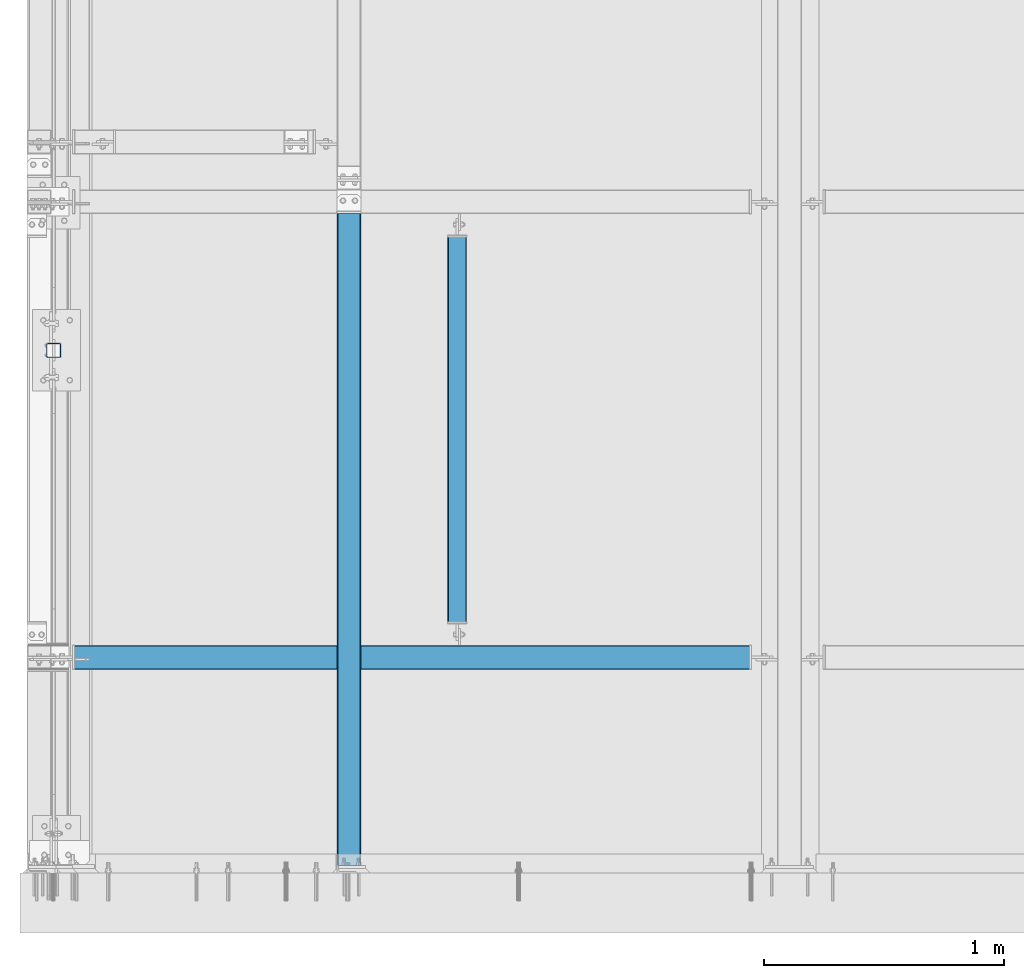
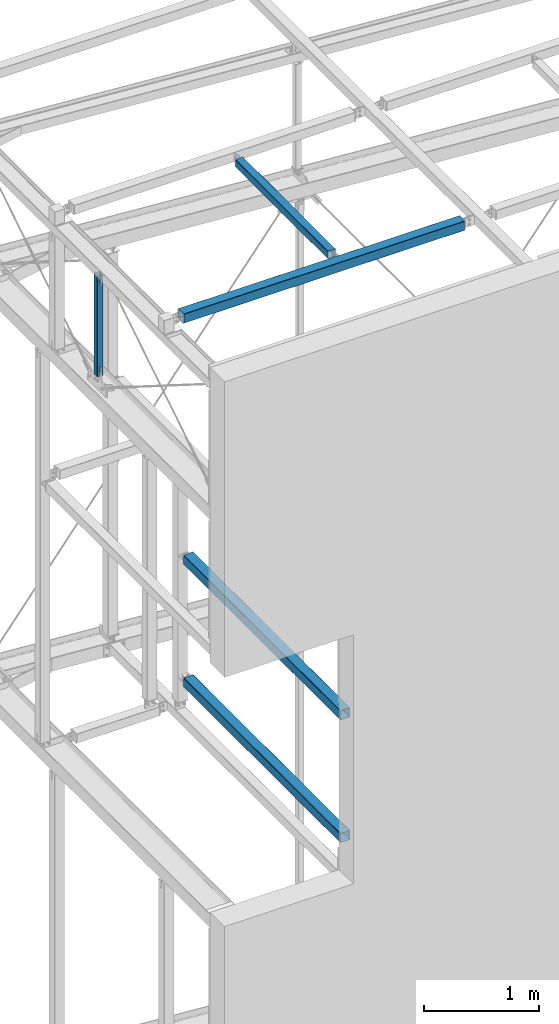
# One storey, part 11 of 271: 5 beams, 5 elements without a shape of their own.
"""IFC2X3 building model written with IfcOpenShell, lengths in millimetres."""

import ifcopenshell
import ifcopenshell.guid

model = None  # the IFC model being written
_history = None  # IfcOwnerHistory: only IFC2X3 demands one
_inside = {}  # id of a spatial element -> (the spatial element, [elements in it])
_under = {}  # id of a project, library or spatial element -> (it, [spatial elements below it])
_declared = {}  # id of a project -> (the project, [libraries it declares])
_typed = {}  # id of a type object -> (the type object, [elements of that type])
_made_of = {}  # id of a material, layer set ... -> (it, [elements and type objects made of it])


def new_model(schema):
    """Start an empty IFC model of exactly this schema.

    Asked for "IFC4X3", IfcOpenShell would pick the latest addendum, in which some entities
    have other attributes; the version numbers below select the first issue.
    IFC2X3 requires an IfcOwnerHistory on every rooted entity: one is made here for all.
    """
    global model, _history
    if schema == "IFC4X3":
        model = ifcopenshell.file(schema_version=(4, 3, 0, 0))
    else:
        model = ifcopenshell.file(schema=schema)
    _inside.clear()
    _under.clear()
    _declared.clear()
    _typed.clear()
    _made_of.clear()
    _history = None
    if model.schema == "IFC2X3":
        org = make("IfcOrganization", Name="unknown")
        user = make(
            "IfcPersonAndOrganization",
            ThePerson=make("IfcPerson", FamilyName="unknown"),
            TheOrganization=org,
        )
        app = make(
            "IfcApplication",
            ApplicationDeveloper=org,
            Version="unknown",
            ApplicationFullName="unknown",
            ApplicationIdentifier="unknown",
        )
        _history = make(
            "IfcOwnerHistory",
            OwningUser=user,
            OwningApplication=app,
            ChangeAction="ADDED",
            CreationDate=0,
        )
    return model


def make(cls, **values):
    """One entity of the class cls with the attributes given. An attribute that is None is left unset."""
    return model.create_entity(
        cls, **{name: value for name, value in values.items() if value is not None}
    )


def rooted(cls, **values):
    """An entity with a GlobalId (a new one), such as an element, a storey or a relation."""
    return make(cls, GlobalId=ifcopenshell.guid.new(), OwnerHistory=_history, **values)


def si_unit(unit_type, name, prefix=None):
    """IfcSIUnit, for example si_unit("LENGTHUNIT", "METRE", prefix="MILLI")."""
    return make("IfcSIUnit", UnitType=unit_type, Prefix=prefix, Name=name)


def assignment(units):
    """IfcUnitAssignment: the units of a project."""
    return None if units is None else make("IfcUnitAssignment", Units=units)


def point(xyz):
    """IfcCartesianPoint."""
    return None if xyz is None else make("IfcCartesianPoint", Coordinates=xyz)


def direction(xyz):
    """IfcDirection."""
    return None if xyz is None else make("IfcDirection", DirectionRatios=xyz)


def frame(location, z_axis=None, x_axis=None):
    """IfcAxis2Placement3D, a coordinate frame: its origin and axes. An axis left out is left unset."""
    return make(
        "IfcAxis2Placement3D",
        Location=point(location),
        Axis=direction(z_axis),
        RefDirection=direction(x_axis),
    )


def frame_2d(location, x_axis=None):
    """IfcAxis2Placement2D, a coordinate frame in the plane: its origin and x axis."""
    return make(
        "IfcAxis2Placement2D", Location=point(location), RefDirection=direction(x_axis)
    )


def origin_with_axes():
    """The frame at (0, 0, 0) with the z axis (0, 0, 1) and the x axis (1, 0, 0) written out."""
    return frame((0.0, 0.0, 0.0), z_axis=(0.0, 0.0, 1.0), x_axis=(1.0, 0.0, 0.0))


def origin_2d_with_axis():
    """The frame at (0, 0) in the plane with the x axis (1, 0) written out."""
    return frame_2d((0.0, 0.0), x_axis=(1.0, 0.0))


def place(relative_to, where):
    """IfcLocalPlacement: puts the frame where relative to a parent placement (None: the world)."""
    return make(
        "IfcLocalPlacement", PlacementRelTo=relative_to, RelativePlacement=where
    )


def context(
    kind, dimensions, precision=None, world=None, true_north=None, identifier=None
):
    """IfcGeometricRepresentationContext, for example the 3D "Model" context."""
    return make(
        "IfcGeometricRepresentationContext",
        ContextIdentifier=identifier,
        ContextType=kind,
        CoordinateSpaceDimension=dimensions,
        Precision=precision,
        WorldCoordinateSystem=world,
        TrueNorth=true_north,
    )


def subcontext(parent, identifier, kind, view, scale=None):
    """IfcGeometricRepresentationSubContext, for example "Body" below "Model"."""
    return make(
        "IfcGeometricRepresentationSubContext",
        ContextIdentifier=identifier,
        ContextType=kind,
        ParentContext=parent,
        TargetScale=scale,
        TargetView=view,
    )


def project(units=None, contexts=None):
    """IfcProject with its units and contexts."""
    return rooted(
        "IfcProject",
        Name="project",
        RepresentationContexts=contexts,
        UnitsInContext=assignment(units),
    )


def spatial(cls, under=None, at=None, **own):
    """A site, building, storey or space (cls), placed at a placement, below another one or the project."""
    s = rooted(cls, ObjectPlacement=at, **own)
    if under is not None:
        _under.setdefault(under.id(), (under, []))[1].append(s)
    return s


def profile(cls, at=None, kind="AREA", **sizes):
    """A parametric profile (cls). Its sizes go by their IFC names, for example OverallWidth=200.0."""
    return make(cls, ProfileType=kind, Position=at, **sizes)


def rectangle(**sizes):
    """IfcRectangleProfileDef."""
    return profile("IfcRectangleProfileDef", **sizes)


def hollow_rectangle(**sizes):
    """IfcRectangleHollowProfileDef."""
    return profile("IfcRectangleHollowProfileDef", **sizes)


def extrude(swept, where, along, depth):
    """IfcExtrudedAreaSolid: the profile swept, set in the frame where, extruded along a direction by depth."""
    return make(
        "IfcExtrudedAreaSolid",
        SweptArea=swept,
        Position=where,
        ExtrudedDirection=direction(along),
        Depth=depth,
    )


def boolean(op, a, b):
    """IfcBooleanResult of two solids."""
    return make("IfcBooleanResult", Operator=op, FirstOperand=a, SecondOperand=b)


def clip(a, b, op="DIFFERENCE"):
    """IfcBooleanClippingResult: the solid a cut by the half space b."""
    return make(
        "IfcBooleanClippingResult", Operator=op, FirstOperand=a, SecondOperand=b
    )


def halfspace(plane, agree):
    """IfcHalfSpaceSolid: all space on one side of the plane z = 0 of the frame plane."""
    return make(
        "IfcHalfSpaceSolid",
        BaseSurface=make("IfcPlane", Position=plane),
        AgreementFlag=agree,
    )


def shape(context_of_items, identifier, shape_type, items):
    """IfcShapeRepresentation: the items that make up one representation, for example the "Body"."""
    return make(
        "IfcShapeRepresentation",
        ContextOfItems=context_of_items,
        RepresentationIdentifier=identifier,
        RepresentationType=shape_type,
        Items=items,
    )


def material(Name=None, Category=None):
    """IfcMaterial."""
    return make("IfcMaterial", Name=Name, Category=Category)


def made_of(thing, what):
    """Note that an element or type object is made of a material, layer set ...; save() writes the relation."""
    if what is not None:
        _made_of.setdefault(what.id(), (what, []))[1].append(thing)
    return thing


def type_object(cls, material=None, **own):
    """A type object (cls), such as IfcWallType, which elements share."""
    return made_of(rooted(cls, **own), material)


def element(
    cls,
    number,
    at=None,
    inside=None,
    cuts=None,
    type_object=None,
    material=None,
    context=None,
    identifier="Body",
    shape_type=None,
    held_by="IfcProductDefinitionShape",
    body=None,
    shapes=None,
    **own,
):
    """One element of the class cls, such as IfcWall. Its Tag is "e" and its number.

    at: its placement. inside: the storey or other place that contains it. cuts: it is an
    opening in that element (IfcRelVoidsElement). A single representation is given by context,
    identifier, shape_type and body (its items); several are given by shapes. held_by: the class
    of the entity that holds the representations. save() writes the other relations.
    """
    e = rooted(cls, Tag="e%d" % number, ObjectPlacement=at, **own)
    if body is not None:
        shapes = [shape(context, identifier, shape_type, body)]
    if shapes is not None:
        e.Representation = make(held_by, Representations=shapes)
    if inside is not None:
        _inside.setdefault(inside.id(), (inside, []))[1].append(e)
    if cuts is not None:
        rooted(
            "IfcRelVoidsElement", RelatingBuildingElement=cuts, RelatedOpeningElement=e
        )
    if type_object is not None:
        _typed.setdefault(type_object.id(), (type_object, []))[1].append(e)
    return made_of(e, material)


def aggregate(whole, parts):
    """IfcRelAggregates: a whole, such as a stair, and the parts it consists of."""
    return rooted("IfcRelAggregates", RelatingObject=whole, RelatedObjects=parts)


def save(model, path):
    """Write the relations noted so far, then the file.

    IfcRelAggregates (storeys below a building ...), IfcRelContainedInSpatialStructure (elements
    in a storey), IfcRelDefinesByType, IfcRelAssociatesMaterial and IfcRelDeclares: one each for
    every whole, place, type object, material and project.
    """
    for whole, parts in _under.values():
        aggregate(whole, parts)
    for where, things in _inside.values():
        rooted(
            "IfcRelContainedInSpatialStructure",
            RelatedElements=things,
            RelatingStructure=where,
        )
    for kind, things in _typed.values():
        rooted("IfcRelDefinesByType", RelatedObjects=things, RelatingType=kind)
    for what, things in _made_of.values():
        rooted("IfcRelAssociatesMaterial", RelatedObjects=things, RelatingMaterial=what)
    for by, libraries in _declared.values():
        rooted("IfcRelDeclares", RelatingContext=by, RelatedDefinitions=libraries)
    model.write(path)


model = new_model("IFC2X3")

# Units and contexts
model_context = context("Model", 3, precision=1e-05, world=origin_with_axes())
body_context = subcontext(model_context, "Body", "Model", "MODEL_VIEW")
ifc_project = project(units=[si_unit("LENGTHUNIT", "METRE", prefix="MILLI"), si_unit("AREAUNIT", "SQUARE_METRE"), si_unit("VOLUMEUNIT", "CUBIC_METRE"), si_unit("MASSUNIT", "GRAM", prefix="KILO"), si_unit("TIMEUNIT", "SECOND"), si_unit("PLANEANGLEUNIT", "RADIAN"), si_unit("SOLIDANGLEUNIT", "STERADIAN"), si_unit("THERMODYNAMICTEMPERATUREUNIT", "DEGREE_CELSIUS"), si_unit("LUMINOUSINTENSITYUNIT", "LUMEN")], contexts=[model_context])

# Site, building, storey
site_placement = place(None, origin_with_axes())
site = spatial("IfcSite", under=ifc_project, at=site_placement, Name="Undefined", CompositionType="ELEMENT")
building_placement = place(site_placement, origin_with_axes())
building = spatial("IfcBuilding", under=site, at=building_placement, Name="Undefined", CompositionType="ELEMENT")
storey_placement = place(building_placement, origin_with_axes())
storey = spatial("IfcBuildingStorey", under=building, at=storey_placement, Name="Undefined", CompositionType="ELEMENT", Elevation=0.0)

# Assembly, beam
assembly_1_placement = place(storey_placement, origin_with_axes())
assembly_1 = element("IfcElementAssembly", 1, at=assembly_1_placement, inside=storey, AssemblyPlace="NOTDEFINED", PredefinedType="RIGID_FRAME")
ifc_material = material(Name="STEEL/S355JR")
beam_type_1 = type_object("IfcBeamType", Name="SHS100*3", PredefinedType="NOTDEFINED")
beam_1_placement = place(assembly_1_placement, frame((1330.37568709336, 2999.05211980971, 14764.3499999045), z_axis=(-1.0, 0.0, 1.38777878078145e-17), x_axis=(0.0, -1.0, 0.0)))
beam_1 = element("IfcBeam", 2, at=beam_1_placement, type_object=beam_type_1, material=ifc_material, Name="SŁUPEK", ObjectType="SHS100*3", context=body_context, shape_type="Clipping", body=[
    clip(clip(extrude(hollow_rectangle(XDim=100.0, YDim=100.0, WallThickness=3.0, InnerFilletRadius=3.0, OuterFilletRadius=6.0, at=origin_2d_with_axis()), frame((3000.0, 0.0, 0.0), z_axis=(-1.0, 0.0, 1.38777878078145e-17), x_axis=(0.0, -1.0, 0.0)), (0.0, 0.0, 1.0), 3000.0), halfspace(frame((2968.0, 50.0, 0.0), z_axis=(-1.0, 0.0, 1.38777878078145e-17), x_axis=(0.0, 0.0, 1.0)), True)), halfspace(frame((248.000000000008, 15.0, 0.0), z_axis=(1.0, 0.0, 0.0), x_axis=(0.0, 0.0, -1.0)), True)),
])
aggregate(assembly_1, [beam_1])

assembly_2_placement = place(storey_placement, origin_with_axes())
assembly_2 = element("IfcElementAssembly", 3, at=assembly_2_placement, inside=storey, AssemblyPlace="NOTDEFINED", PredefinedType="RIGID_FRAME")
beam_2_placement = place(assembly_2_placement, frame((1330.37568709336, 2999.05211980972, 16064.3499999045), z_axis=(-1.0, 0.0, 1.38777878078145e-17), x_axis=(0.0, -1.0, 0.0)))
beam_2 = element("IfcBeam", 4, at=beam_2_placement, type_object=beam_type_1, material=ifc_material, Name="SŁUPEK", ObjectType="SHS100*3", context=body_context, shape_type="Clipping", body=[
    clip(clip(extrude(hollow_rectangle(XDim=100.0, YDim=100.0, WallThickness=3.0, InnerFilletRadius=3.0, OuterFilletRadius=6.0, at=origin_2d_with_axis()), frame((3000.0, 0.0, 0.0), z_axis=(-1.0, 0.0, 1.38777878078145e-17), x_axis=(0.0, -1.0, 0.0)), (0.0, 0.0, 1.0), 3000.0), halfspace(frame((2968.0, -50.0, 0.0), z_axis=(-1.0, 0.0, 1.38777878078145e-17), x_axis=(0.0, 0.0, -1.0)), True)), halfspace(frame((248.00000000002, -15.0, 0.0), z_axis=(1.0, 0.0, 0.0), x_axis=(0.0, 0.0, 1.0)), True)),
])
aggregate(assembly_2, [beam_2])

assembly_3_placement = place(storey_placement, origin_with_axes())
assembly_3 = element("IfcElementAssembly", 5, at=assembly_3_placement, inside=storey, AssemblyPlace="NOTDEFINED", PredefinedType="RIGID_FRAME")
beam_3_placement = place(assembly_3_placement, frame((-11.6243129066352, 899.32498425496, 20154.3499999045), z_axis=(0.0, 1.0, 0.0), x_axis=(1.0, 0.0, 0.0)))
beam_3 = element("IfcBeam", 6, at=beam_3_placement, type_object=beam_type_1, material=ifc_material, Name="RYGIEL", ObjectType="SHS100*3", context=body_context, shape_type="Clipping", body=[
    clip(clip(extrude(hollow_rectangle(XDim=100.0, YDim=100.0, WallThickness=3.0, InnerFilletRadius=3.0, OuterFilletRadius=6.0, at=origin_2d_with_axis()), frame((3180.0, 0.0, 0.0), z_axis=(-1.0, 0.0, 1.38777878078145e-17), x_axis=(0.0, -1.0, 0.0)), (0.0, 0.0, 1.0), 3180.0), halfspace(frame((3012.0, 0.0, -15.0), z_axis=(-1.0, 0.0, 1.38777878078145e-17), x_axis=(0.0, 1.0, 0.0)), True)), halfspace(frame((198.000000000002, 0.0, -15.0), z_axis=(1.0, 0.0, 0.0), x_axis=(0.0, -1.0, 0.0)), True)),
])
aggregate(assembly_3, [beam_3])

assembly_4_placement = place(storey_placement, origin_with_axes())
assembly_4 = element("IfcElementAssembly", 7, at=assembly_4_placement, inside=storey, AssemblyPlace="NOTDEFINED", PredefinedType="RIGID_FRAME")
beam_type_2 = type_object("IfcBeamType", Name="SHS60*3", PredefinedType="NOTDEFINED")
beam_4_placement = place(assembly_4_placement, frame((98.9999996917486, 2179.19355050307, 20004.3499999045), z_axis=(0.0, 1.0, 0.0), x_axis=(0.0, 0.0, -1.0)))
beam_4 = element("IfcBeam", 8, at=beam_4_placement, type_object=beam_type_2, material=ifc_material, Name="TĘŻNIK", ObjectType="SHS60*3", context=body_context, shape_type="CSG", body=[
    boolean("DIFFERENCE", boolean("DIFFERENCE", boolean("DIFFERENCE", boolean("DIFFERENCE", extrude(hollow_rectangle(XDim=60.0, YDim=60.0, WallThickness=3.0, InnerFilletRadius=3.0, OuterFilletRadius=6.0, at=origin_2d_with_axis()), frame((1360.0, 0.0, 0.0), z_axis=(-1.0, 0.0, 1.38777878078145e-17), x_axis=(0.0, -1.0, 0.0)), (0.0, 0.0, 1.0), 1360.0), extrude(rectangle(XDim=13.0, YDim=64.0, at=origin_2d_with_axis()), frame((247.881323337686, -3.08251401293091e-07, 0.0), z_axis=(-1.0, 0.0, 1.38777878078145e-17), x_axis=(0.0, 1.0, 0.0)), (0.0, 0.0, 1.0), 103.0)), extrude(rectangle(XDim=13.0, YDim=64.0, at=origin_2d_with_axis()), frame((1111.70000004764, -3.08251401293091e-07, 0.0), z_axis=(1.0, 0.0, 0.0), x_axis=(0.0, 1.0, 0.0)), (0.0, 0.0, 1.0), 103.0)), halfspace(frame((1212.70000004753, 18.0000003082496, 0.0), z_axis=(-1.0, 0.0, 1.38777878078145e-17), x_axis=(0.0, 0.0, 1.0)), True)), halfspace(frame((146.881323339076, 18.0000003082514, 0.0), z_axis=(1.0, 0.0, 0.0), x_axis=(0.0, 0.0, -1.0)), True)),
])
aggregate(assembly_4, [beam_4])

assembly_5_placement = place(storey_placement, origin_with_axes())
assembly_5 = element("IfcElementAssembly", 9, at=assembly_5_placement, inside=storey, AssemblyPlace="NOTDEFINED", PredefinedType="RIGID_FRAME")
beam_type_3 = type_object("IfcBeamType", Name="SHS80*3", PredefinedType="NOTDEFINED")
beam_5_placement = place(assembly_5_placement, frame((1781.37568709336, 2847.32511981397, 20164.3499999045), z_axis=(1.0, 0.0, 0.0), x_axis=(0.0, -1.0, 0.0)))
beam_5 = element("IfcBeam", 10, at=beam_5_placement, type_object=beam_type_3, material=ifc_material, Name="SŁUPEK", ObjectType="SHS80*3", context=body_context, shape_type="Clipping", body=[
    clip(clip(extrude(hollow_rectangle(XDim=80.0, YDim=80.0, WallThickness=3.0, InnerFilletRadius=3.0, OuterFilletRadius=6.0, at=origin_2d_with_axis()), frame((1800.00027110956, 0.0, 0.0), z_axis=(-1.0, 0.0, 1.38777878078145e-17), x_axis=(0.0, -1.0, 0.0)), (0.0, 0.0, 1.0), 1800.0), halfspace(frame((1800.00013555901, 0.0, 15.0), z_axis=(-1.0, 0.0, 1.38777878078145e-17), x_axis=(0.0, -1.0, 0.0)), True)), halfspace(frame((196.000135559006, 0.0, 15.0), z_axis=(1.0, 0.0, 0.0), x_axis=(0.0, 1.0, 0.0)), True)),
])
aggregate(assembly_5, [beam_5])

save(model, "model.ifc")
